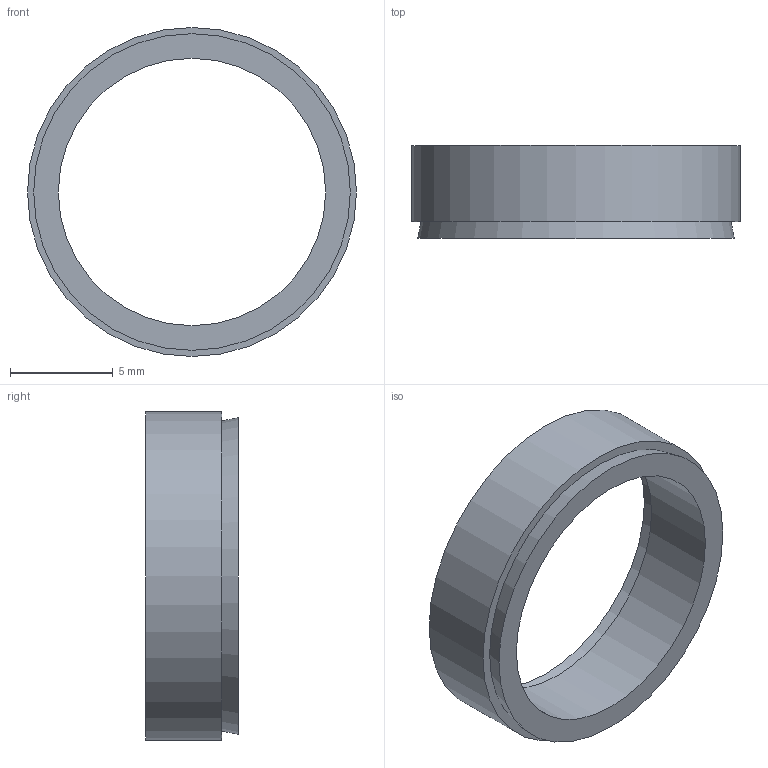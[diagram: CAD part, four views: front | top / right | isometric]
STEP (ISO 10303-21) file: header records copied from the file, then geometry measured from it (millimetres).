
FILE_DESCRIPTION( ( 'Unknown' ), '1' );
FILE_NAME( 'C:/Dokumente und Einstellungen/Sven/Desktop/homepage/cad - homepage/KBS50/KBS 50 - 13 x 16.stp', 'Unknown', ( 'Unknown' ), ( 'Unknown' ), 'XStep 1.0', 'Unknown', ' ' );
FILE_SCHEMA( ( 'automotive_design' ) );
Length unit declared in the file: millimetre
Products named in the file (1): 1
Bounding box: 16 x 4.5 x 16 mm (x, y, z)
Volume: 279.8 mm3; surface area: 562.7 mm2
Topology: 1 solids, 1 shells, 8 faces, 12 edges, 8 vertices
Faces by surface type: plane 4, cylinder 2, cone 2
Full cylindrical faces by diameter (mm): 13 x1, 16 x1
Entity records: 248 total; most frequent: DIRECTION 34, CARTESIAN_POINT 25, AXIS2_PLACEMENT_3D 17, EDGE_LOOP 16, ORIENTED_EDGE 16, FACE_OUTER_BOUND 10, STYLED_ITEM 8, PRESENTATION_STYLE_ASSIGNMENT 8
